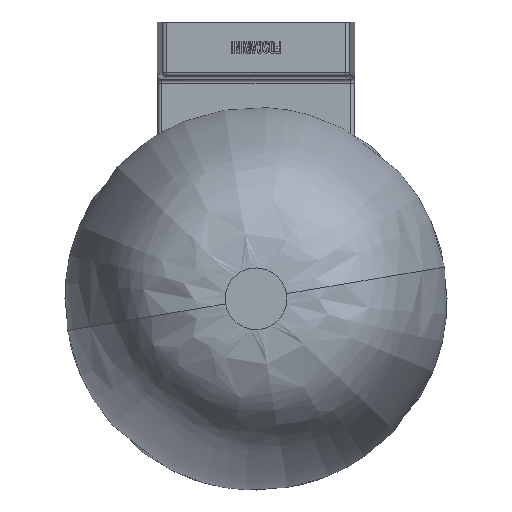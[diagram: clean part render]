
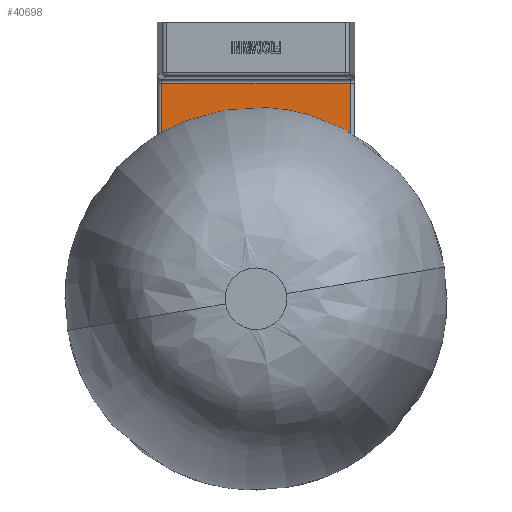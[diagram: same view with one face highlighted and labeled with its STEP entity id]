
A CAD part, front view. The second image highlights one B-rep face of the part: STEP entity #40698.
In plain terms, the highlighted planar face has unit normal (0, -1, 0).
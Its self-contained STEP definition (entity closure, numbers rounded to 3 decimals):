
#215 = VECTOR ( 'NONE', #55407, 1000. ) ;
#547 = DIRECTION ( 'NONE',  ( 0., 0., 1. ) ) ;
#709 = DIRECTION ( 'NONE',  ( 0., 0., -1. ) ) ;
#1695 = ORIENTED_EDGE ( 'NONE', *, *, #16728, .T. ) ;
#3357 = EDGE_CURVE ( 'NONE', #20796, #37691, #7374, .T. ) ;
#4110 = CIRCLE ( 'NONE', #56934, 32.966 ) ;
#5749 = FACE_BOUND ( 'NONE', #46840, .T. ) ;
#5986 = ORIENTED_EDGE ( 'NONE', *, *, #6928, .T. ) ;
#6514 = DIRECTION ( 'NONE',  ( 0., 1., 0. ) ) ;
#6928 = EDGE_CURVE ( 'NONE', #37691, #20796, #25363, .T. ) ;
#7057 = ORIENTED_EDGE ( 'NONE', *, *, #8800, .T. ) ;
#7309 = VERTEX_POINT ( 'NONE', #28012 ) ;
#7319 = DIRECTION ( 'NONE',  ( 0., 0., 1. ) ) ;
#7374 = CIRCLE ( 'NONE', #8328, 1.508 ) ;
#8043 = EDGE_CURVE ( 'NONE', #7309, #24151, #13810, .T. ) ;
#8328 = AXIS2_PLACEMENT_3D ( 'NONE', #55539, #32279, #46343 ) ;
#8531 = DIRECTION ( 'NONE',  ( 0., 1., 0. ) ) ;
#8800 = EDGE_CURVE ( 'NONE', #37616, #24672, #4110, .T. ) ;
#9435 = FACE_OUTER_BOUND ( 'NONE', #44944, .T. ) ;
#10320 = CARTESIAN_POINT ( 'NONE',  ( -32.766, -8.865, 23.992 ) ) ;
#11963 = DIRECTION ( 'NONE',  ( 0., 1., 0. ) ) ;
#12533 = CARTESIAN_POINT ( 'NONE',  ( -32.766, -8.865, 23.992 ) ) ;
#13181 = CIRCLE ( 'NONE', #45436, 32.966 ) ;
#13314 = EDGE_CURVE ( 'NONE', #24151, #38655, #41308, .T. ) ;
#13810 = CIRCLE ( 'NONE', #17741, 47.79 ) ;
#14483 = CARTESIAN_POINT ( 'NONE',  ( -80.556, -8.865, 23.992 ) ) ;
#14619 = CARTESIAN_POINT ( 'NONE',  ( 17.234, -8.865, -26.008 ) ) ;
#14923 = FACE_BOUND ( 'NONE', #34950, .T. ) ;
#15700 = CARTESIAN_POINT ( 'NONE',  ( 2.734, -8.865, 23.992 ) ) ;
#16102 = VERTEX_POINT ( 'NONE', #46670 ) ;
#16134 = DIRECTION ( 'NONE',  ( 0., 0., 1. ) ) ;
#16728 = EDGE_CURVE ( 'NONE', #38655, #16102, #44589, .T. ) ;
#17741 = AXIS2_PLACEMENT_3D ( 'NONE', #34914, #53570, #7319 ) ;
#20796 = VERTEX_POINT ( 'NONE', #57720 ) ;
#22376 = CARTESIAN_POINT ( 'NONE',  ( 2.734, -8.865, 25.5 ) ) ;
#22603 = DIRECTION ( 'NONE',  ( 0., 0., 1. ) ) ;
#24151 = VERTEX_POINT ( 'NONE', #54588 ) ;
#24672 = VERTEX_POINT ( 'NONE', #34078 ) ;
#25363 = CIRCLE ( 'NONE', #30293, 1.508 ) ;
#27835 = CARTESIAN_POINT ( 'NONE',  ( -32.766, -8.865, 56.958 ) ) ;
#27963 = EDGE_CURVE ( 'NONE', #24672, #37616, #13181, .T. ) ;
#28012 = CARTESIAN_POINT ( 'NONE',  ( -80.556, -8.865, 23.992 ) ) ;
#29496 = DIRECTION ( 'NONE',  ( 0., 0., 1. ) ) ;
#30293 = AXIS2_PLACEMENT_3D ( 'NONE', #33155, #34060, #52720 ) ;
#31260 = EDGE_LOOP ( 'NONE', ( #7057, #59563 ) ) ;
#32279 = DIRECTION ( 'NONE',  ( 0., 1., 0. ) ) ;
#33155 = CARTESIAN_POINT ( 'NONE',  ( -68.266, -8.865, 23.992 ) ) ;
#34060 = DIRECTION ( 'NONE',  ( 0., 1., 0. ) ) ;
#34078 = CARTESIAN_POINT ( 'NONE',  ( -32.766, -8.865, -8.973 ) ) ;
#34210 = VERTEX_POINT ( 'NONE', #22376 ) ;
#34914 = CARTESIAN_POINT ( 'NONE',  ( -32.766, -8.865, 23.992 ) ) ;
#34950 = EDGE_LOOP ( 'NONE', ( #46286, #35488 ) ) ;
#35138 = DIRECTION ( 'NONE',  ( -1., 0., 0. ) ) ;
#35488 = ORIENTED_EDGE ( 'NONE', *, *, #50249, .T. ) ;
#36754 = ORIENTED_EDGE ( 'NONE', *, *, #38324, .T. ) ;
#37248 = AXIS2_PLACEMENT_3D ( 'NONE', #49016, #11963, #49943 ) ;
#37616 = VERTEX_POINT ( 'NONE', #27835 ) ;
#37691 = VERTEX_POINT ( 'NONE', #51123 ) ;
#37826 = LINE ( 'NONE', #14483, #49283 ) ;
#38290 = CARTESIAN_POINT ( 'NONE',  ( 15.024, -8.865, 133.027 ) ) ;
#38324 = EDGE_CURVE ( 'NONE', #16102, #7309, #37826, .T. ) ;
#38655 = VERTEX_POINT ( 'NONE', #38290 ) ;
#38674 = ORIENTED_EDGE ( 'NONE', *, *, #13314, .T. ) ;
#39743 = DIRECTION ( 'NONE',  ( 0., 1., 0. ) ) ;
#40698 = ADVANCED_FACE ( 'NONE', ( #51413, #9435, #14923, #5749 ), #43410, .F. ) ;
#41308 = LINE ( 'NONE', #46213, #215 ) ;
#41638 = AXIS2_PLACEMENT_3D ( 'NONE', #14619, #47999, #547 ) ;
#43410 = PLANE ( 'NONE',  #41638 ) ;
#44589 = LINE ( 'NONE', #48863, #60331 ) ;
#44944 = EDGE_LOOP ( 'NONE', ( #36754, #54969, #38674, #1695 ) ) ;
#45436 = AXIS2_PLACEMENT_3D ( 'NONE', #10320, #39743, #16134 ) ;
#46213 = CARTESIAN_POINT ( 'NONE',  ( 15.024, -8.865, -26.008 ) ) ;
#46286 = ORIENTED_EDGE ( 'NONE', *, *, #55270, .T. ) ;
#46343 = DIRECTION ( 'NONE',  ( 0., 0., 1. ) ) ;
#46670 = CARTESIAN_POINT ( 'NONE',  ( -80.556, -8.865, 133.027 ) ) ;
#46840 = EDGE_LOOP ( 'NONE', ( #5986, #48927 ) ) ;
#47673 = VERTEX_POINT ( 'NONE', #53885 ) ;
#47999 = DIRECTION ( 'NONE',  ( 0., 1., 0. ) ) ;
#48863 = CARTESIAN_POINT ( 'NONE',  ( -82.504, -8.865, 133.027 ) ) ;
#48927 = ORIENTED_EDGE ( 'NONE', *, *, #3357, .T. ) ;
#48957 = CIRCLE ( 'NONE', #37248, 1.508 ) ;
#49016 = CARTESIAN_POINT ( 'NONE',  ( 2.734, -8.865, 23.992 ) ) ;
#49283 = VECTOR ( 'NONE', #709, 1000. ) ;
#49943 = DIRECTION ( 'NONE',  ( 0., 0., 1. ) ) ;
#50249 = EDGE_CURVE ( 'NONE', #34210, #47673, #48957, .T. ) ;
#51123 = CARTESIAN_POINT ( 'NONE',  ( -68.266, -8.865, 25.5 ) ) ;
#51413 = FACE_BOUND ( 'NONE', #31260, .T. ) ;
#51581 = AXIS2_PLACEMENT_3D ( 'NONE', #15700, #6514, #29496 ) ;
#52720 = DIRECTION ( 'NONE',  ( 0., 0., 1. ) ) ;
#53570 = DIRECTION ( 'NONE',  ( 0., -1., 0. ) ) ;
#53885 = CARTESIAN_POINT ( 'NONE',  ( 2.734, -8.865, 22.484 ) ) ;
#54588 = CARTESIAN_POINT ( 'NONE',  ( 15.024, -8.865, 23.992 ) ) ;
#54969 = ORIENTED_EDGE ( 'NONE', *, *, #8043, .T. ) ;
#55270 = EDGE_CURVE ( 'NONE', #47673, #34210, #60346, .T. ) ;
#55407 = DIRECTION ( 'NONE',  ( 0., 0., 1. ) ) ;
#55539 = CARTESIAN_POINT ( 'NONE',  ( -68.266, -8.865, 23.992 ) ) ;
#56934 = AXIS2_PLACEMENT_3D ( 'NONE', #12533, #8531, #22603 ) ;
#57720 = CARTESIAN_POINT ( 'NONE',  ( -68.266, -8.865, 22.484 ) ) ;
#59563 = ORIENTED_EDGE ( 'NONE', *, *, #27963, .T. ) ;
#60331 = VECTOR ( 'NONE', #35138, 1000. ) ;
#60346 = CIRCLE ( 'NONE', #51581, 1.508 ) ;
